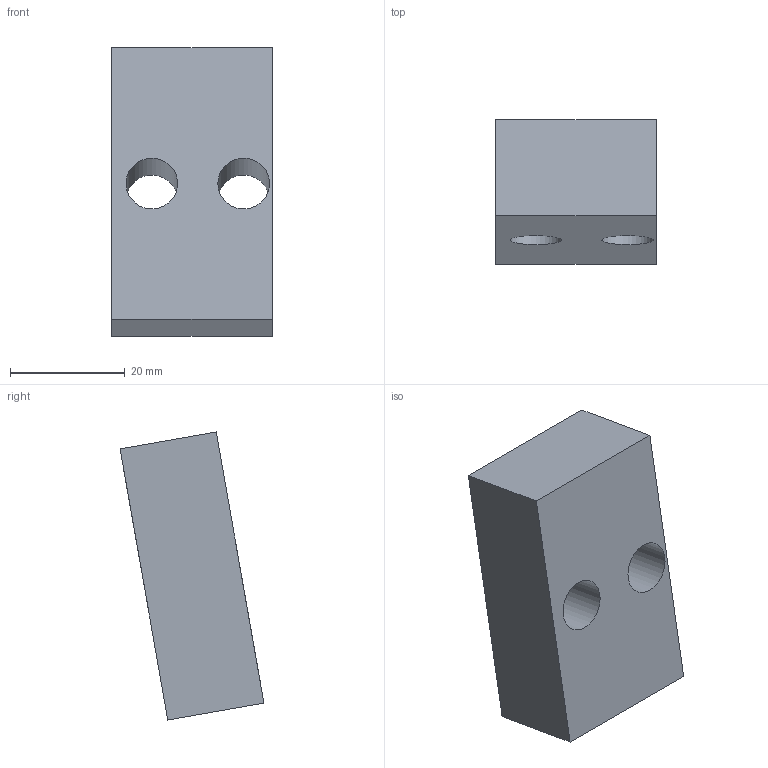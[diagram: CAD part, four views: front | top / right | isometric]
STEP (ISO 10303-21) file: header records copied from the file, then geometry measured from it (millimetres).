
FILE_DESCRIPTION(('golf model'),'2;1');
FILE_NAME('golf','',(''),(''),'golf_step_io','golf','');
FILE_SCHEMA(('AUTOMOTIVE_DESIGN { 1 0 10303 214 1 1 1 1 }'));
Length unit declared in the file: millimetre
Products named in the file (2): ASSEMBLY; gantry_drives.x_tab_spacer_top
Assembly tree (1 placements, depth 2):
  ASSEMBLY
    gantry_drives.x_tab_spacer_top
Bounding box: 28 x 25.08 x 50.22 mm (x, y, z)
Volume: 20685 mm3; surface area: 5978.9 mm2
Topology: 1 solids, 1 shells, 8 faces, 18 edges, 12 vertices
Faces by surface type: plane 6, cylinder 2
Full cylindrical faces by diameter (mm): 9 x2
Entity records: 258 total; most frequent: DIRECTION 40, CARTESIAN_POINT 38, ORIENTED_EDGE 32, EDGE_CURVE 16, AXIS2_PLACEMENT_3D 14, EDGE_LOOP 14, VERTEX_POINT 12, VECTOR 12
